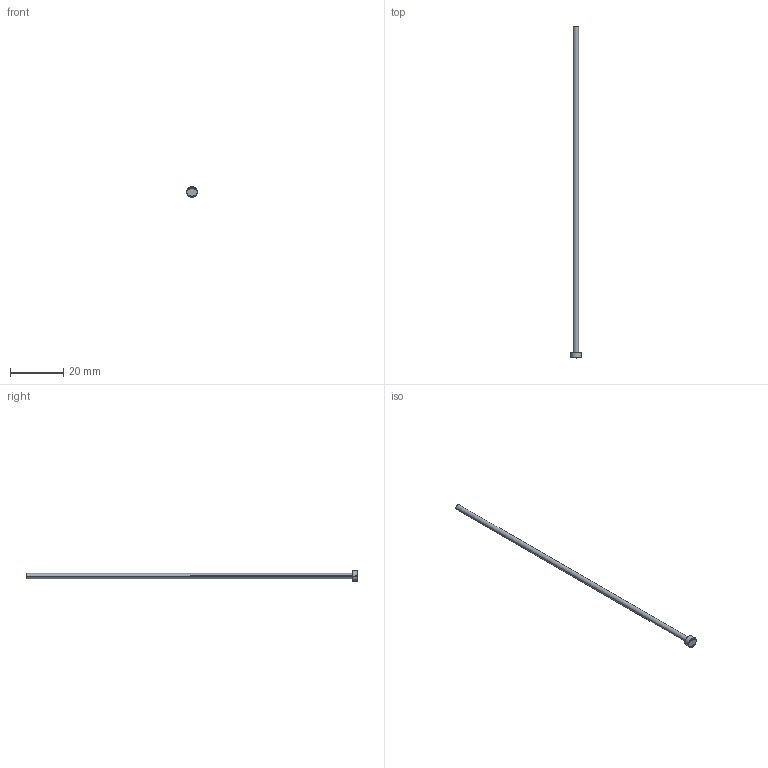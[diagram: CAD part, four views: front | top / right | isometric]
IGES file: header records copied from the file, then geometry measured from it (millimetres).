
Start section: SolidWorks IGES file using analytic representation for surfaces
Global section: file name: C:\Users\User\Downloads\Matripeça 31-08 tar\PB - PINO EXTRATOR TIPO _B_ (CATÁLOGO)\PB02,0\PB02,0125.IGS; native system: SolidWorks 2024; preprocessor: SolidWorks 2024; author: User; date: 260901.140344; units: millimetre
Bounding box: 4 x 125 x 4 mm (x, y, z)
Surface area: 825.7 mm2 (no closed solid volume)
Topology: 0 solids, 0 shells, 400 faces, 2873 edges, 2873 vertices
Faces by surface type: bspline 386, revolution 14
